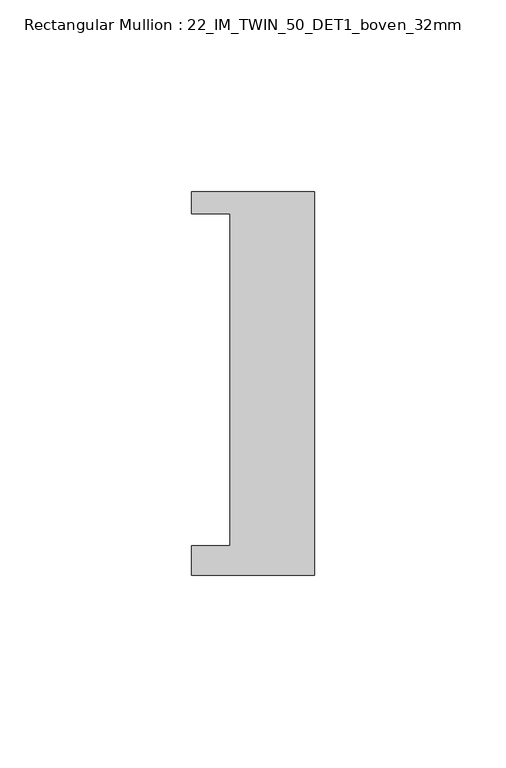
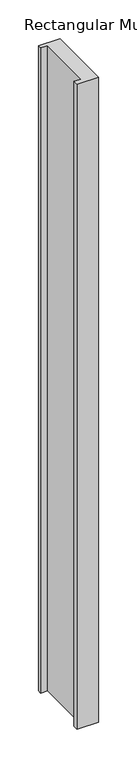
"""IFC4 building model written with IfcOpenShell, lengths in millimetres: member geometry, Rectangular Mullion : 22_IM_TWIN_50_DET1_boven_32mm."""

from ifc_helpers import new_model, si_unit, frame, origin, place, context, project, spatial, polyline, outline, extrude, source, transform, mapped, element, save


def rectangular_mullion_22_im_twin_50_det1_boven_32mm_feee0dc3(model_context):
    return source(origin(), model_context, "Body", "SweptSolid", [
        extrude(outline(polyline([(-32.0, 50.0), (0.0, 50.0), (0.0, -50.0), (-32.0, -50.0), (-32.0, -42.3), (-22.0, -42.3), (-22.0, 44.3), (-32.0, 44.3), (-32.0, 50.0)])), frame((0.0, 0.0, -1018.0), z_axis=(0.0, 0.0, 1.0), x_axis=(1.0, 0.0, 0.0)), (0.0, 0.0, 1.0), 1018.0),
    ])


if __name__ == "__main__":
    model = new_model("IFC4")
    model_context = context("Model", 3, world=origin())
    ifc_project = project(units=[si_unit("LENGTHUNIT", "METRE", prefix="MILLI")], contexts=[model_context])
    site = spatial("IfcSite", under=ifc_project)
    building = spatial("IfcBuilding", under=site)
    placement = place(None, origin())
    rectangular_mullion_22_im_twin_50_det1_boven_32mm_shape = rectangular_mullion_22_im_twin_50_det1_boven_32mm_feee0dc3(model_context)
    element("IfcMember", 1, ObjectType="Rectangular Mullion : 22_IM_TWIN_50_DET1_boven_32mm", at=placement, inside=building, context=model_context, shape_type="MappedRepresentation", body=[
        mapped(rectangular_mullion_22_im_twin_50_det1_boven_32mm_shape, transform((0.0, 0.0, 0.0), x_axis=(1.0, 0.0, 0.0), y_axis=(0.0, 1.0, 0.0), z_axis=(0.0, 0.0, 1.0))),
    ])
    save(model, "model.ifc")
